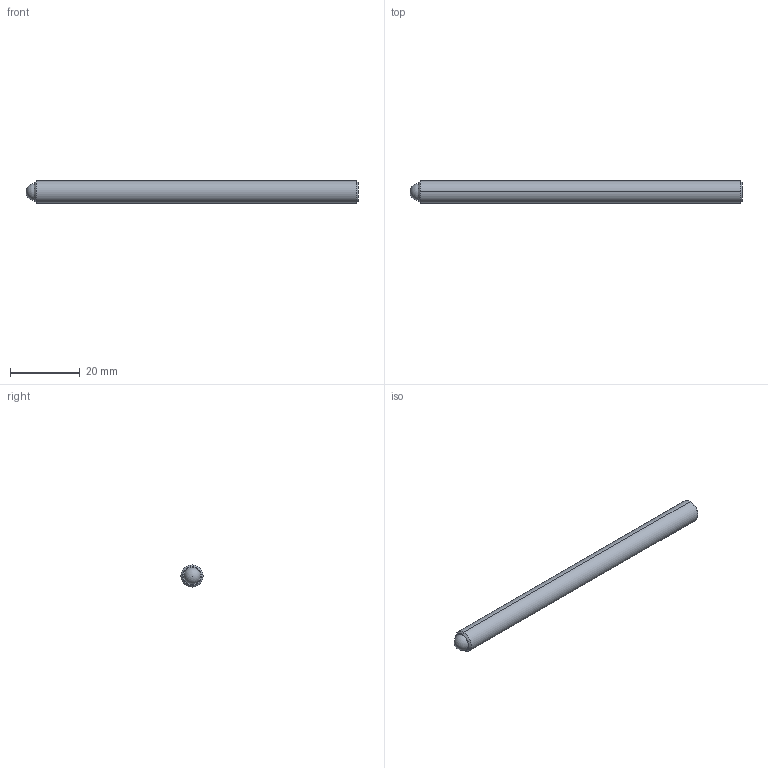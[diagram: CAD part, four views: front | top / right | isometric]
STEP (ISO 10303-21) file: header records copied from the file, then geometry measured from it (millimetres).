
FILE_DESCRIPTION (( 'STEP AP214' ), '1' );
FILE_NAME ('TS250-100-3750-AA.STEP', '2013-02-13T14:17:30', ( 'workpc' ), ( 'Microsoft' ), 'SwSTEP 2.0', 'SolidWorks 2013', '' );
FILE_SCHEMA (( 'AUTOMOTIVE_DESIGN' ));
Length unit declared in the file: inch
Products named in the file (1): TS250-100-3750-AA
Bounding box: 95.25 x 6.35 x 6.35 mm (x, y, z)
Volume: 2949.6 mm3; surface area: 2020.1 mm2
Topology: 2 solids, 2 shells, 20 faces, 45 edges, 29 vertices
Faces by surface type: plane 10, cylinder 4, cone 4, sphere 2
Entity records: 599 total; most frequent: DIRECTION 96, CARTESIAN_POINT 87, ORIENTED_EDGE 80, EDGE_CURVE 40, AXIS2_PLACEMENT_3D 35, VECTOR 26, LINE 26, VERTEX_POINT 26
